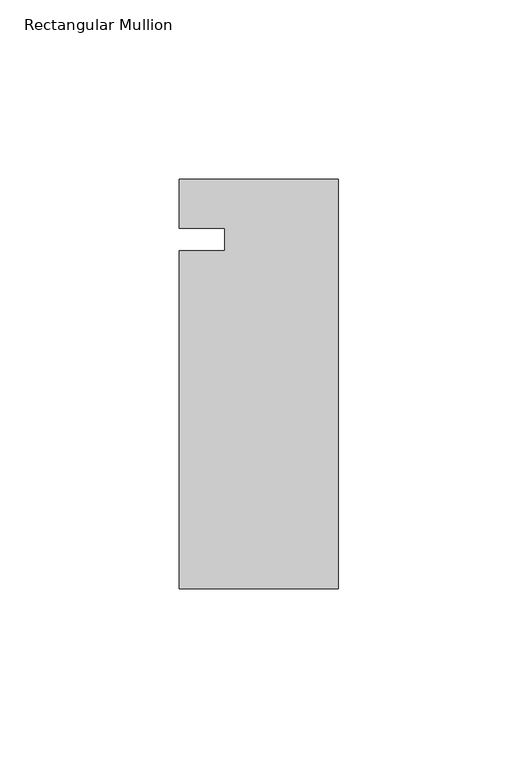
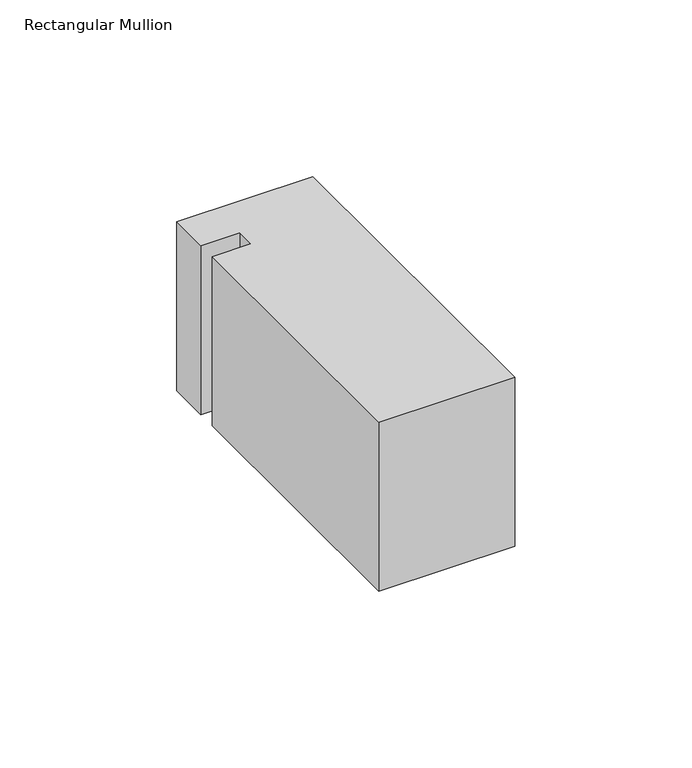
"""IFC4 building model written with IfcOpenShell, lengths in millimetres: member geometry, Rectangular Mullion : Kawneer-TRIFAB_VG_450_BACK_SB_Jamb L."""

import ifcopenshell
import ifcopenshell.guid

model = None  # the IFC model being written
_history = None  # IfcOwnerHistory: only IFC2X3 demands one
_inside = {}  # id of a spatial element -> (the spatial element, [elements in it])
_under = {}  # id of a project, library or spatial element -> (it, [spatial elements below it])
_declared = {}  # id of a project -> (the project, [libraries it declares])
_typed = {}  # id of a type object -> (the type object, [elements of that type])
_made_of = {}  # id of a material, layer set ... -> (it, [elements and type objects made of it])


def new_model(schema):
    """Start an empty IFC model of exactly this schema.

    Asked for "IFC4X3", IfcOpenShell would pick the latest addendum, in which some entities
    have other attributes; the version numbers below select the first issue.
    IFC2X3 requires an IfcOwnerHistory on every rooted entity: one is made here for all.
    """
    global model, _history
    if schema == "IFC4X3":
        model = ifcopenshell.file(schema_version=(4, 3, 0, 0))
    else:
        model = ifcopenshell.file(schema=schema)
    _inside.clear()
    _under.clear()
    _declared.clear()
    _typed.clear()
    _made_of.clear()
    _history = None
    if model.schema == "IFC2X3":
        org = make("IfcOrganization", Name="unknown")
        user = make(
            "IfcPersonAndOrganization",
            ThePerson=make("IfcPerson", FamilyName="unknown"),
            TheOrganization=org,
        )
        app = make(
            "IfcApplication",
            ApplicationDeveloper=org,
            Version="unknown",
            ApplicationFullName="unknown",
            ApplicationIdentifier="unknown",
        )
        _history = make(
            "IfcOwnerHistory",
            OwningUser=user,
            OwningApplication=app,
            ChangeAction="ADDED",
            CreationDate=0,
        )
    return model


def make(cls, **values):
    """One entity of the class cls with the attributes given. An attribute that is None is left unset."""
    return model.create_entity(
        cls, **{name: value for name, value in values.items() if value is not None}
    )


def rooted(cls, **values):
    """An entity with a GlobalId (a new one), such as an element, a storey or a relation."""
    return make(cls, GlobalId=ifcopenshell.guid.new(), OwnerHistory=_history, **values)


def si_unit(unit_type, name, prefix=None):
    """IfcSIUnit, for example si_unit("LENGTHUNIT", "METRE", prefix="MILLI")."""
    return make("IfcSIUnit", UnitType=unit_type, Prefix=prefix, Name=name)


def assignment(units):
    """IfcUnitAssignment: the units of a project."""
    return None if units is None else make("IfcUnitAssignment", Units=units)


def point(xyz):
    """IfcCartesianPoint."""
    return None if xyz is None else make("IfcCartesianPoint", Coordinates=xyz)


def direction(xyz):
    """IfcDirection."""
    return None if xyz is None else make("IfcDirection", DirectionRatios=xyz)


def frame(location, z_axis=None, x_axis=None):
    """IfcAxis2Placement3D, a coordinate frame: its origin and axes. An axis left out is left unset."""
    return make(
        "IfcAxis2Placement3D",
        Location=point(location),
        Axis=direction(z_axis),
        RefDirection=direction(x_axis),
    )


def origin():
    """The frame at (0, 0, 0) with its axes left unset."""
    return frame((0.0, 0.0, 0.0))


def place(relative_to, where):
    """IfcLocalPlacement: puts the frame where relative to a parent placement (None: the world)."""
    return make(
        "IfcLocalPlacement", PlacementRelTo=relative_to, RelativePlacement=where
    )


def context(
    kind, dimensions, precision=None, world=None, true_north=None, identifier=None
):
    """IfcGeometricRepresentationContext, for example the 3D "Model" context."""
    return make(
        "IfcGeometricRepresentationContext",
        ContextIdentifier=identifier,
        ContextType=kind,
        CoordinateSpaceDimension=dimensions,
        Precision=precision,
        WorldCoordinateSystem=world,
        TrueNorth=true_north,
    )


def project(units=None, contexts=None):
    """IfcProject with its units and contexts."""
    return rooted(
        "IfcProject",
        Name="project",
        RepresentationContexts=contexts,
        UnitsInContext=assignment(units),
    )


def spatial(cls, under=None, at=None, **own):
    """A site, building, storey or space (cls), placed at a placement, below another one or the project."""
    s = rooted(cls, ObjectPlacement=at, **own)
    if under is not None:
        _under.setdefault(under.id(), (under, []))[1].append(s)
    return s


def polyline(points):
    """IfcPolyline through the points."""
    return make("IfcPolyline", Points=[point(p) for p in points])


def outline(outer, holes=None, kind="AREA"):
    """IfcArbitraryClosedProfileDef: a profile drawn as a closed curve; with holes, ...WithVoids."""
    if holes is None:
        return make("IfcArbitraryClosedProfileDef", ProfileType=kind, OuterCurve=outer)
    return make(
        "IfcArbitraryProfileDefWithVoids",
        ProfileType=kind,
        OuterCurve=outer,
        InnerCurves=holes,
    )


def extrude(swept, where, along, depth):
    """IfcExtrudedAreaSolid: the profile swept, set in the frame where, extruded along a direction by depth."""
    return make(
        "IfcExtrudedAreaSolid",
        SweptArea=swept,
        Position=where,
        ExtrudedDirection=direction(along),
        Depth=depth,
    )


def shape(context_of_items, identifier, shape_type, items):
    """IfcShapeRepresentation: the items that make up one representation, for example the "Body"."""
    return make(
        "IfcShapeRepresentation",
        ContextOfItems=context_of_items,
        RepresentationIdentifier=identifier,
        RepresentationType=shape_type,
        Items=items,
    )


def source(mapping_origin, context_of_items, identifier, shape_type, items):
    """IfcRepresentationMap: a shape defined once, which mapped items show again and again."""
    return make(
        "IfcRepresentationMap",
        MappingOrigin=mapping_origin,
        MappedRepresentation=shape(context_of_items, identifier, shape_type, items),
    )


def transform(
    local_origin,
    x_axis=None,
    y_axis=None,
    z_axis=None,
    scale=None,
    scale2=None,
    scale3=None,
    uniform=True,
):
    """IfcCartesianTransformationOperator3D, or its non-uniform kind. x_axis, y_axis, z_axis: its Axis1, 2, 3."""
    if uniform:
        return make(
            "IfcCartesianTransformationOperator3D",
            Axis1=direction(x_axis),
            Axis2=direction(y_axis),
            LocalOrigin=point(local_origin),
            Scale=scale,
            Axis3=direction(z_axis),
        )
    return make(
        "IfcCartesianTransformationOperator3DnonUniform",
        Axis1=direction(x_axis),
        Axis2=direction(y_axis),
        LocalOrigin=point(local_origin),
        Scale=scale,
        Axis3=direction(z_axis),
        Scale2=scale2,
        Scale3=scale3,
    )


def mapped(mapping_source, mapping_target):
    """IfcMappedItem: shows the shape of a source again, moved by a transform."""
    return make(
        "IfcMappedItem", MappingSource=mapping_source, MappingTarget=mapping_target
    )


def made_of(thing, what):
    """Note that an element or type object is made of a material, layer set ...; save() writes the relation."""
    if what is not None:
        _made_of.setdefault(what.id(), (what, []))[1].append(thing)
    return thing


def element(
    cls,
    number,
    at=None,
    inside=None,
    cuts=None,
    type_object=None,
    material=None,
    context=None,
    identifier="Body",
    shape_type=None,
    held_by="IfcProductDefinitionShape",
    body=None,
    shapes=None,
    **own,
):
    """One element of the class cls, such as IfcWall. Its Tag is "e" and its number.

    at: its placement. inside: the storey or other place that contains it. cuts: it is an
    opening in that element (IfcRelVoidsElement). A single representation is given by context,
    identifier, shape_type and body (its items); several are given by shapes. held_by: the class
    of the entity that holds the representations. save() writes the other relations.
    """
    e = rooted(cls, Tag="e%d" % number, ObjectPlacement=at, **own)
    if body is not None:
        shapes = [shape(context, identifier, shape_type, body)]
    if shapes is not None:
        e.Representation = make(held_by, Representations=shapes)
    if inside is not None:
        _inside.setdefault(inside.id(), (inside, []))[1].append(e)
    if cuts is not None:
        rooted(
            "IfcRelVoidsElement", RelatingBuildingElement=cuts, RelatedOpeningElement=e
        )
    if type_object is not None:
        _typed.setdefault(type_object.id(), (type_object, []))[1].append(e)
    return made_of(e, material)


def aggregate(whole, parts):
    """IfcRelAggregates: a whole, such as a stair, and the parts it consists of."""
    return rooted("IfcRelAggregates", RelatingObject=whole, RelatedObjects=parts)


def save(model, path):
    """Write the relations noted so far, then the file.

    IfcRelAggregates (storeys below a building ...), IfcRelContainedInSpatialStructure (elements
    in a storey), IfcRelDefinesByType, IfcRelAssociatesMaterial and IfcRelDeclares: one each for
    every whole, place, type object, material and project.
    """
    for whole, parts in _under.values():
        aggregate(whole, parts)
    for where, things in _inside.values():
        rooted(
            "IfcRelContainedInSpatialStructure",
            RelatedElements=things,
            RelatingStructure=where,
        )
    for kind, things in _typed.values():
        rooted("IfcRelDefinesByType", RelatedObjects=things, RelatingType=kind)
    for what, things in _made_of.values():
        rooted("IfcRelAssociatesMaterial", RelatedObjects=things, RelatingMaterial=what)
    for by, libraries in _declared.values():
        rooted("IfcRelDeclares", RelatingContext=by, RelatedDefinitions=libraries)
    model.write(path)


def rectangular_mullion_aeacb874(model_context):
    return source(origin(), model_context, "Body", "SweptSolid", [
        extrude(outline(polyline([(-44.45, 16.8671875), (0.0, 16.8671875), (0.0, -97.4328125), (-44.45, -97.4328125), (-44.45, -3.1159279), (-31.7482296, -3.1159279), (-31.7482296, 3.2340721), (-44.45, 3.2340721), (-44.45, 16.8671875)])), frame((0.0, 0.0, -58.3094027), z_axis=(0.0, 0.0, 1.0), x_axis=(1.0, 0.0, 0.0)), (0.0, 0.0, 1.0), 58.3094027),
    ])


if __name__ == "__main__":
    model = new_model("IFC4")
    model_context = context("Model", 3, world=origin())
    ifc_project = project(units=[si_unit("LENGTHUNIT", "METRE", prefix="MILLI")], contexts=[model_context])
    site = spatial("IfcSite", under=ifc_project)
    building = spatial("IfcBuilding", under=site)
    placement = place(None, origin())
    rectangular_mullion_shape = rectangular_mullion_aeacb874(model_context)
    element("IfcMember", 1, ObjectType="Rectangular Mullion : Kawneer-TRIFAB_VG_450_BACK_SB_Jamb L", at=placement, inside=building, context=model_context, shape_type="MappedRepresentation", body=[
        mapped(rectangular_mullion_shape, transform((0.0, 0.0, 0.0), x_axis=(1.0, 0.0, 0.0), y_axis=(0.0, 1.0, 0.0), z_axis=(0.0, 0.0, 1.0))),
    ])
    save(model, "model.ifc")
